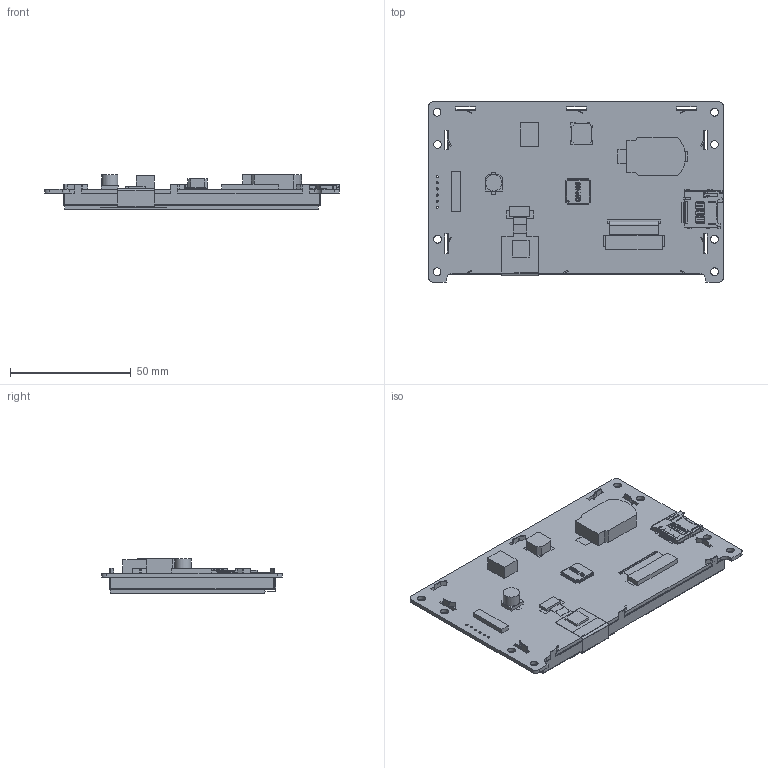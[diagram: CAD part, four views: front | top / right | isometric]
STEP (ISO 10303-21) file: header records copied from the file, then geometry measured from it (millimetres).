
FILE_DESCRIPTION(/* description */ (''),/* implementation_level */ '2;1');
FILE_NAME(/* name */ '',/* time_stamp */ '2022-05-17T17:42:40+08:00',/* author */ (''),/* organization */ (''),/* preprocessor_version */ 'ST-DEVELOPER v11',/* originating_system */ 'SIEMENS PLM Software NX 7.5',/* authorisation */ '');
FILE_SCHEMA (('AP203_CONFIGURATION_CONTROLLED_3D_DESIGN_OF_MECHANICAL_PARTS_AND_ASSEMBLIES_MIM_LF'));
Products named in the file (1): SDWb043T84C_stp
Bounding box: 121.9 x 74.7 x 14.23 mm (x, y, z)
Volume: 28599.9 mm3; surface area: 46261.2 mm2
Topology: 20 solids, 20 shells, 2305 faces, 6650 edges, 4375 vertices
Faces by surface type: plane 1854, cylinder 443, bspline 7, cone 1
Full cylindrical faces by diameter (mm): 0.889 x6, 3.2 x8, 6.776 x1
Entity records: 77400 total; most frequent: CARTESIAN_POINT 13725, ORIENTED_EDGE 13256, DIRECTION 12030, EDGE_CURVE 6628, LINE 5704, VECTOR 5704, VERTEX_POINT 4368, AXIS2_PLACEMENT_3D 3163
